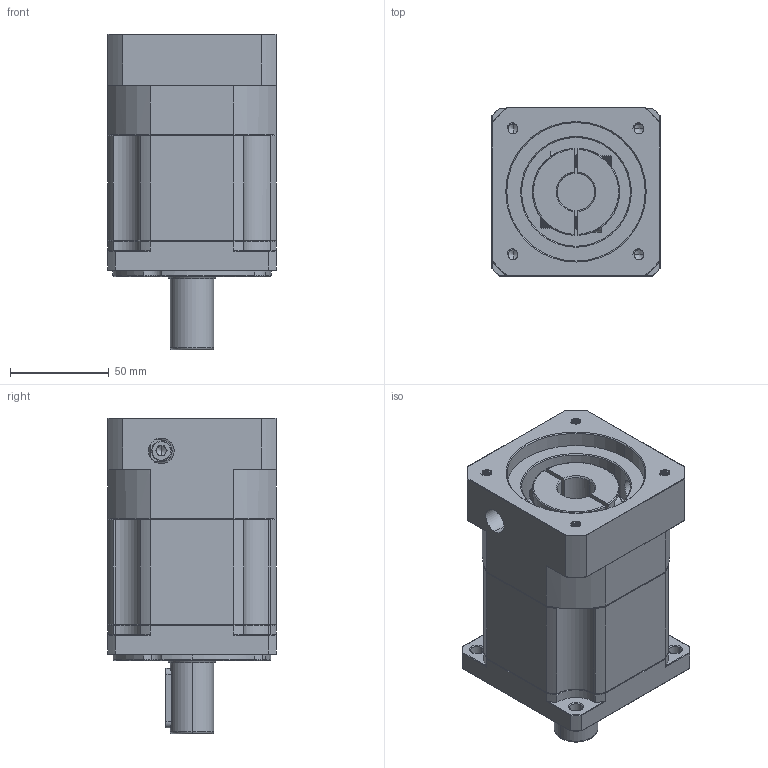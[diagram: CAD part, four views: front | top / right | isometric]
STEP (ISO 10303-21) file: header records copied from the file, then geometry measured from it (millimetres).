
FILE_DESCRIPTION (( 'STEP AP214' ), '1' );
FILE_NAME ('ZB90-D22-L2-19-70-90-M6.STEP', '2022-05-02T15:47:42', ( '' ), ( 'Microsoft' ), 'SwSTEP 2.0', 'SolidWorks 2016', '' );
FILE_SCHEMA (( 'AUTOMOTIVE_DESIGN' ));
Length unit declared in the file: millimetre
Products named in the file (1): ZB90-D22-L2-19-70-90-M6
Bounding box: 85 x 85 x 159.5 mm (x, y, z)
Volume: 731531.9 mm3; surface area: 90940.4 mm2
Topology: 4 solids, 4 shells, 1911 faces, 5026 edges, 3192 vertices
Faces by surface type: plane 876, cylinder 390, cone 319, bspline 314, torus 12
Entity records: 103977 total; most frequent: CARTESIAN_POINT 38600, ORIENTED_EDGE 10008, DIRECTION 8025, EDGE_CURVE 5004, VERTEX_POINT 3192, LINE 3083, VECTOR 3083, AXIS2_PLACEMENT_3D 2471
